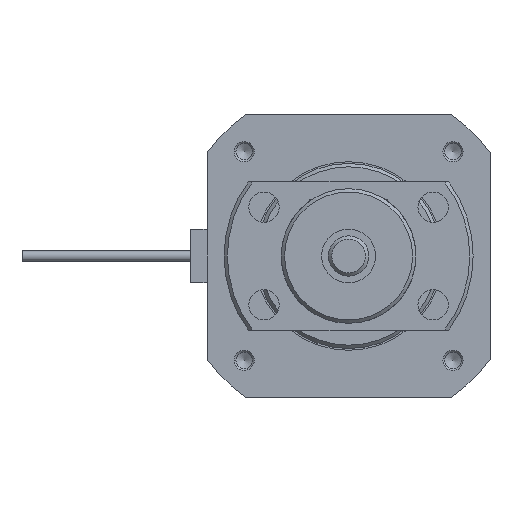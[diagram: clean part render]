
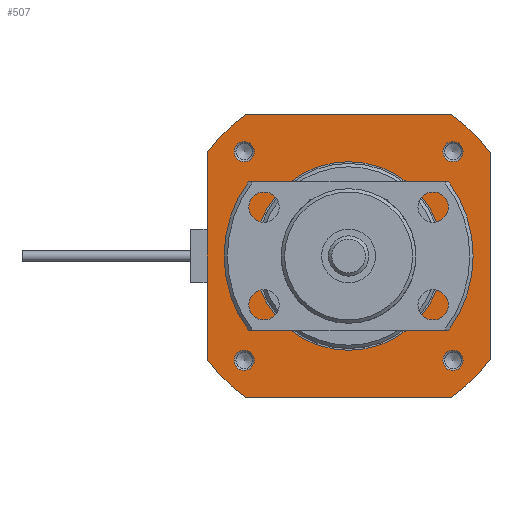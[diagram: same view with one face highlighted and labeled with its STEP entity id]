
A CAD part, left-side view. The second image highlights one B-rep face of the part: STEP entity #507.
In plain terms, the highlighted planar face has unit normal (-1, 0, 0) as drawn and (0, 0, 1) by its records, which use the part's own axes.
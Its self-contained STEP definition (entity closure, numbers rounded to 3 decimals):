
#507 = ADVANCED_FACE( '', ( #1149, #1150, #1151, #1152, #1153, #1154 ), #1155, .F. );
#1149 = FACE_OUTER_BOUND( '', #2060, .T. );
#1150 = FACE_BOUND( '', #2061, .T. );
#1151 = FACE_BOUND( '', #2062, .T. );
#1152 = FACE_BOUND( '', #2063, .T. );
#1153 = FACE_BOUND( '', #2064, .T. );
#1154 = FACE_BOUND( '', #2065, .T. );
#1155 = PLANE( '', #2066 );
#2060 = EDGE_LOOP( '', ( #3406, #3407, #3408, #3409, #3410, #3411, #3412, #3413 ) );
#2061 = EDGE_LOOP( '', ( #3414 ) );
#2062 = EDGE_LOOP( '', ( #3415 ) );
#2063 = EDGE_LOOP( '', ( #3416 ) );
#2064 = EDGE_LOOP( '', ( #3417 ) );
#2065 = EDGE_LOOP( '', ( #3418 ) );
#2066 = AXIS2_PLACEMENT_3D( '', #3419, #3420, #3421 );
#3406 = ORIENTED_EDGE( '', *, *, #4867, .T. );
#3407 = ORIENTED_EDGE( '', *, *, #4468, .F. );
#3408 = ORIENTED_EDGE( '', *, *, #4825, .T. );
#3409 = ORIENTED_EDGE( '', *, *, #4712, .F. );
#3410 = ORIENTED_EDGE( '', *, *, #4868, .T. );
#3411 = ORIENTED_EDGE( '', *, *, #4869, .F. );
#3412 = ORIENTED_EDGE( '', *, *, #4870, .T. );
#3413 = ORIENTED_EDGE( '', *, *, #4500, .F. );
#3414 = ORIENTED_EDGE( '', *, *, #4707, .T. );
#3415 = ORIENTED_EDGE( '', *, *, #4871, .T. );
#3416 = ORIENTED_EDGE( '', *, *, #4872, .T. );
#3417 = ORIENTED_EDGE( '', *, *, #4873, .T. );
#3418 = ORIENTED_EDGE( '', *, *, #4579, .T. );
#3419 = CARTESIAN_POINT( '', ( 0., 14., -188. ) );
#3420 = DIRECTION( '', ( 0., 0., -1. ) );
#3421 = DIRECTION( '', ( -1., 0., 0. ) );
#4468 = EDGE_CURVE( '', #5296, #5292, #5298, .T. );
#4500 = EDGE_CURVE( '', #5352, #5348, #5354, .T. );
#4579 = EDGE_CURVE( '', #5489, #5489, #5490, .T. );
#4707 = EDGE_CURVE( '', #5695, #5695, #5696, .T. );
#4712 = EDGE_CURVE( '', #5703, #5699, #5705, .T. );
#4825 = EDGE_CURVE( '', #5296, #5699, #5869, .T. );
#4867 = EDGE_CURVE( '', #5352, #5292, #5928, .T. );
#4868 = EDGE_CURVE( '', #5703, #5929, #5930, .T. );
#4869 = EDGE_CURVE( '', #5931, #5929, #5932, .T. );
#4870 = EDGE_CURVE( '', #5931, #5348, #5933, .T. );
#4871 = EDGE_CURVE( '', #5934, #5934, #5935, .T. );
#4872 = EDGE_CURVE( '', #5936, #5936, #5937, .T. );
#4873 = EDGE_CURVE( '', #5938, #5938, #5939, .T. );
#5292 = VERTEX_POINT( '', #6535 );
#5296 = VERTEX_POINT( '', #6540 );
#5298 = CIRCLE( '', #6543, 26. );
#5348 = VERTEX_POINT( '', #6632 );
#5352 = VERTEX_POINT( '', #6637 );
#5354 = CIRCLE( '', #6640, 26. );
#5489 = VERTEX_POINT( '', #6816 );
#5490 = CIRCLE( '', #6817, 14. );
#5695 = VERTEX_POINT( '', #7233 );
#5696 = CIRCLE( '', #7234, 1.5 );
#5699 = VERTEX_POINT( '', #7237 );
#5703 = VERTEX_POINT( '', #7242 );
#5705 = CIRCLE( '', #7245, 26. );
#5869 = LINE( '', #7528, #7529 );
#5928 = LINE( '', #7652, #7653 );
#5929 = VERTEX_POINT( '', #7654 );
#5930 = LINE( '', #7655, #7656 );
#5931 = VERTEX_POINT( '', #7657 );
#5932 = CIRCLE( '', #7658, 26. );
#5933 = LINE( '', #7659, #7660 );
#5934 = VERTEX_POINT( '', #7661 );
#5935 = CIRCLE( '', #7662, 1.5 );
#5936 = VERTEX_POINT( '', #7663 );
#5937 = CIRCLE( '', #7664, 1.5 );
#5938 = VERTEX_POINT( '', #7665 );
#5939 = CIRCLE( '', #7666, 1.5 );
#6535 = CARTESIAN_POINT( '', ( -15.33, 21., -188. ) );
#6540 = CARTESIAN_POINT( '', ( -21., 15.33, -188. ) );
#6543 = AXIS2_PLACEMENT_3D( '', #8143, #8144, #8145 );
#6632 = CARTESIAN_POINT( '', ( 21., 15.33, -188. ) );
#6637 = CARTESIAN_POINT( '', ( 15.33, 21., -188. ) );
#6640 = AXIS2_PLACEMENT_3D( '', #8171, #8172, #8173 );
#6816 = CARTESIAN_POINT( '', ( -14., 0., -188. ) );
#6817 = AXIS2_PLACEMENT_3D( '', #8291, #8292, #8293 );
#7233 = CARTESIAN_POINT( '', ( 14., -15.5, -188. ) );
#7234 = AXIS2_PLACEMENT_3D( '', #8414, #8415, #8416 );
#7237 = CARTESIAN_POINT( '', ( -21., -15.33, -188. ) );
#7242 = CARTESIAN_POINT( '', ( -15.33, -21., -188. ) );
#7245 = AXIS2_PLACEMENT_3D( '', #8422, #8423, #8424 );
#7528 = CARTESIAN_POINT( '', ( -21., 21., -188. ) );
#7529 = VECTOR( '', #8528, 1000. );
#7652 = CARTESIAN_POINT( '', ( 21., 21., -188. ) );
#7653 = VECTOR( '', #8554, 1000. );
#7654 = CARTESIAN_POINT( '', ( 15.33, -21., -188. ) );
#7655 = CARTESIAN_POINT( '', ( -21., -21., -188. ) );
#7656 = VECTOR( '', #8555, 1000. );
#7657 = CARTESIAN_POINT( '', ( 21., -15.33, -188. ) );
#7658 = AXIS2_PLACEMENT_3D( '', #8556, #8557, #8558 );
#7659 = CARTESIAN_POINT( '', ( 21., -21., -188. ) );
#7660 = VECTOR( '', #8559, 1000. );
#7661 = CARTESIAN_POINT( '', ( -17., -15.5, -188. ) );
#7662 = AXIS2_PLACEMENT_3D( '', #8560, #8561, #8562 );
#7663 = CARTESIAN_POINT( '', ( 14., 15.5, -188. ) );
#7664 = AXIS2_PLACEMENT_3D( '', #8563, #8564, #8565 );
#7665 = CARTESIAN_POINT( '', ( -17., 15.5, -188. ) );
#7666 = AXIS2_PLACEMENT_3D( '', #8566, #8567, #8568 );
#8143 = CARTESIAN_POINT( '', ( 0., 0., -188. ) );
#8144 = DIRECTION( '', ( 0., 0., -1. ) );
#8145 = DIRECTION( '', ( -1., 0., 0. ) );
#8171 = CARTESIAN_POINT( '', ( 0., 0., -188. ) );
#8172 = DIRECTION( '', ( 0., 0., -1. ) );
#8173 = DIRECTION( '', ( -1., 0., 0. ) );
#8291 = CARTESIAN_POINT( '', ( 0., 0., -188. ) );
#8292 = DIRECTION( '', ( 0., 0., -1. ) );
#8293 = DIRECTION( '', ( -1., 0., 0. ) );
#8414 = CARTESIAN_POINT( '', ( 15.5, -15.5, -188. ) );
#8415 = DIRECTION( '', ( 0., 0., -1. ) );
#8416 = DIRECTION( '', ( -1., 0., 0. ) );
#8422 = CARTESIAN_POINT( '', ( 0., 0., -188. ) );
#8423 = DIRECTION( '', ( 0., 0., -1. ) );
#8424 = DIRECTION( '', ( -1., 0., 0. ) );
#8528 = DIRECTION( '', ( 0., -1., 0. ) );
#8554 = DIRECTION( '', ( -1., 0., 0. ) );
#8555 = DIRECTION( '', ( 1., 0., 0. ) );
#8556 = CARTESIAN_POINT( '', ( 0., 0., -188. ) );
#8557 = DIRECTION( '', ( 0., 0., -1. ) );
#8558 = DIRECTION( '', ( -1., 0., 0. ) );
#8559 = DIRECTION( '', ( 0., 1., 0. ) );
#8560 = CARTESIAN_POINT( '', ( -15.5, -15.5, -188. ) );
#8561 = DIRECTION( '', ( 0., 0., -1. ) );
#8562 = DIRECTION( '', ( -1., 0., 0. ) );
#8563 = CARTESIAN_POINT( '', ( 15.5, 15.5, -188. ) );
#8564 = DIRECTION( '', ( 0., 0., -1. ) );
#8565 = DIRECTION( '', ( -1., 0., 0. ) );
#8566 = CARTESIAN_POINT( '', ( -15.5, 15.5, -188. ) );
#8567 = DIRECTION( '', ( 0., 0., -1. ) );
#8568 = DIRECTION( '', ( -1., 0., 0. ) );
